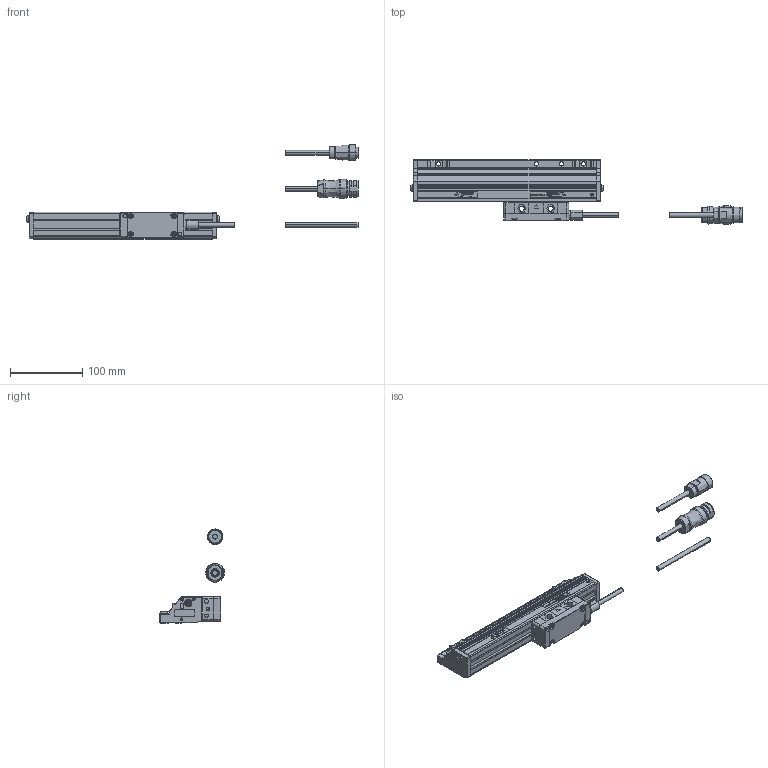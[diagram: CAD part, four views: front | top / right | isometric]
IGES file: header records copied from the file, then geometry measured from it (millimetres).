
Start section: Elysium IGES Interface
Global section: file name: 65H\\Utsu119s\kiyo_cad\data\3D\AT402E\HP掲載用_201708\AT402E-140.igs; native system: Creo Elements/Direct Modeling 18.1B  29-Sep-2012; preprocessor: Creo Element/Direct IGES_3D V2.2; author: Unknown; organization: Unknown; date: 20180221.111924; units: millimetre
Bounding box: 459.63 x 90 x 130.25 mm (x, y, z)
Volume: 532825.3 mm3; surface area: 86309.8 mm2
Topology: 5 solids, 5 shells, 971 faces, 2676 edges, 1819 vertices
Faces by surface type: bspline 971
